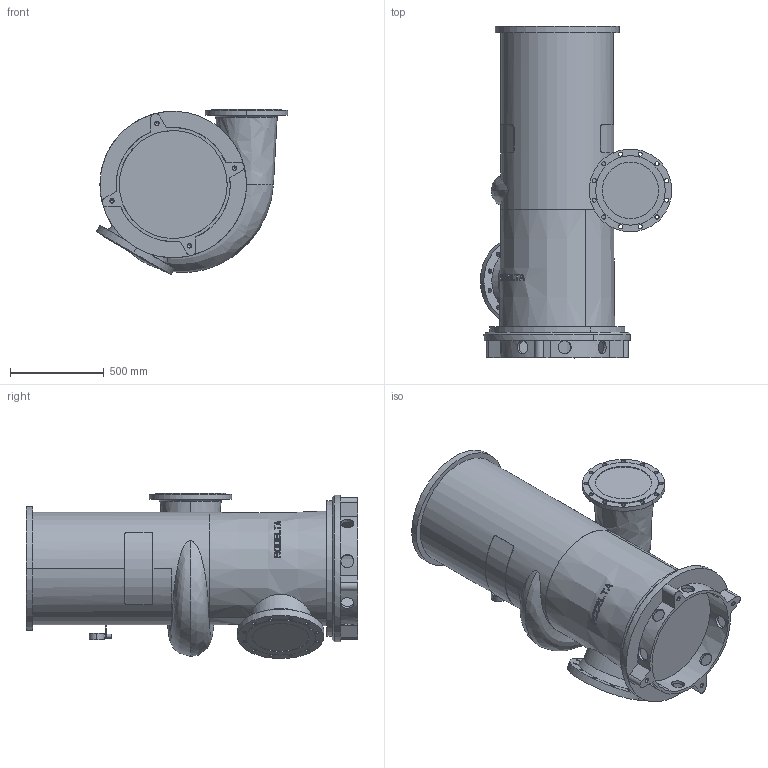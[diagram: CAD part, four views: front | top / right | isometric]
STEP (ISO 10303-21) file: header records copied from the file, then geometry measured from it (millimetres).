
FILE_DESCRIPTION((''),'2;1');
FILE_NAME('12-520_ASM','2024-08-06T',('Lyritlocal'),(''),'PRO/ENGINEER BY PARAMETRIC TECHNOLOGY CORPORATION, 2016360','PRO/ENGINEER BY PARAMETRIC TECHNOLOGY CORPORATION, 2016360','');
FILE_SCHEMA(('CONFIG_CONTROL_DESIGN'));
Length unit declared in the file: millimetre
Products named in the file (3): 12-520; 12-520_VOET; 12-520_ASM
Assembly tree (2 placements, depth 2):
  12-520_ASM
    12-520
    12-520_VOET
Bounding box: 1019.69 x 1766.5 x 879.6 mm (x, y, z)
Volume: 566586530 mm3; surface area: 6652634.1 mm2
Topology: 2 solids, 6 shells, 503 faces, 1366 edges, 900 vertices
Faces by surface type: plane 323, cylinder 138, cone 36, bspline 6
Entity records: 17785 total; most frequent: CARTESIAN_POINT 5428, ORIENTED_EDGE 2700, DIRECTION 2313, EDGE_CURVE 1358, VERTEX_POINT 900, AXIS2_PLACEMENT_3D 896, EDGE_LOOP 608, VECTOR 521
